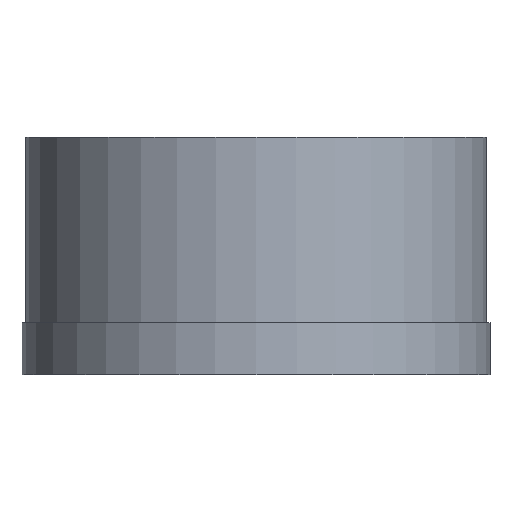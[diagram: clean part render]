
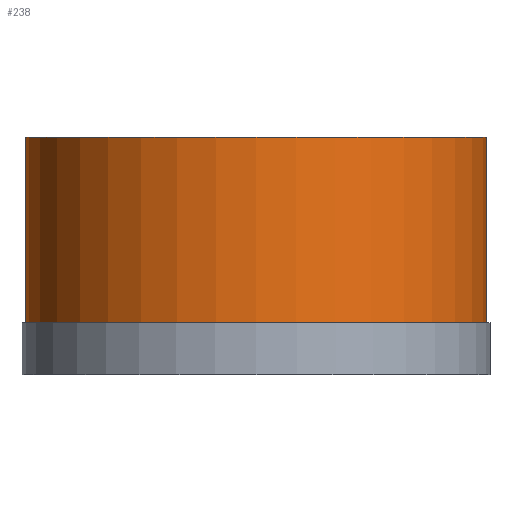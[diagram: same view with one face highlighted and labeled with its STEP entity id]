
A CAD part, front view. The second image highlights one B-rep face of the part: STEP entity #238.
In plain terms, the highlighted cylindrical face has radius 15.5 mm (diameter 31 mm), a full revolution.
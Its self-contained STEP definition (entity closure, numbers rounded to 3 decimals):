
#1 = VERTEX_POINT ( 'NONE', #246 ) ;
#13 = CIRCLE ( 'NONE', #197, 15.5 ) ;
#31 = DIRECTION ( 'NONE',  ( -1., 0., 0. ) ) ;
#47 = DIRECTION ( 'NONE',  ( 0., 0., 1. ) ) ;
#65 = FACE_OUTER_BOUND ( 'NONE', #89, .T. ) ;
#73 = DIRECTION ( 'NONE',  ( 0., 0., 1. ) ) ;
#89 = EDGE_LOOP ( 'NONE', ( #254 ) ) ;
#108 = CARTESIAN_POINT ( 'NONE',  ( 0., 0., 0. ) ) ;
#144 = EDGE_CURVE ( 'NONE', #1, #1, #13, .T. ) ;
#145 = VERTEX_POINT ( 'NONE', #225 ) ;
#148 = ORIENTED_EDGE ( 'NONE', *, *, #270, .T. ) ;
#169 = CYLINDRICAL_SURFACE ( 'NONE', #269, 15.5 ) ;
#176 = FACE_OUTER_BOUND ( 'NONE', #198, .T. ) ;
#181 = CARTESIAN_POINT ( 'NONE',  ( 0., 0., 3.5 ) ) ;
#197 = AXIS2_PLACEMENT_3D ( 'NONE', #207, #73, #212 ) ;
#198 = EDGE_LOOP ( 'NONE', ( #148 ) ) ;
#207 = CARTESIAN_POINT ( 'NONE',  ( 0., 0., 16. ) ) ;
#212 = DIRECTION ( 'NONE',  ( 1., 0., 0. ) ) ;
#224 = CIRCLE ( 'NONE', #231, 15.5 ) ;
#225 = CARTESIAN_POINT ( 'NONE',  ( -15.5, 0., 3.5 ) ) ;
#231 = AXIS2_PLACEMENT_3D ( 'NONE', #181, #266, #31 ) ;
#238 = ADVANCED_FACE ( 'NONE', ( #65, #176 ), #169, .T. ) ;
#246 = CARTESIAN_POINT ( 'NONE',  ( 15.5, 0., 16. ) ) ;
#251 = DIRECTION ( 'NONE',  ( 1., 0., 0. ) ) ;
#254 = ORIENTED_EDGE ( 'NONE', *, *, #144, .F. ) ;
#266 = DIRECTION ( 'NONE',  ( 0., 0., 1. ) ) ;
#269 = AXIS2_PLACEMENT_3D ( 'NONE', #108, #47, #251 ) ;
#270 = EDGE_CURVE ( 'NONE', #145, #145, #224, .T. ) ;
